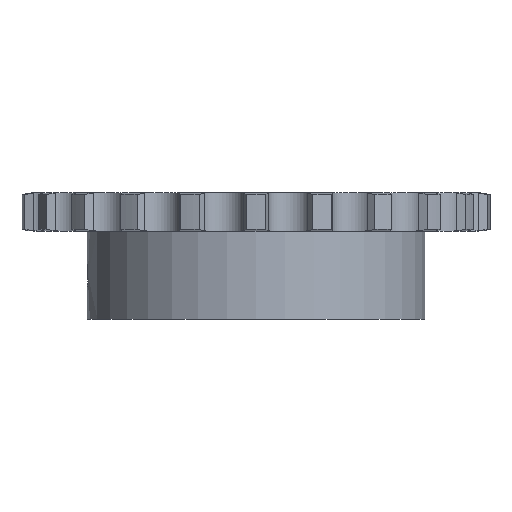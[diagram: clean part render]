
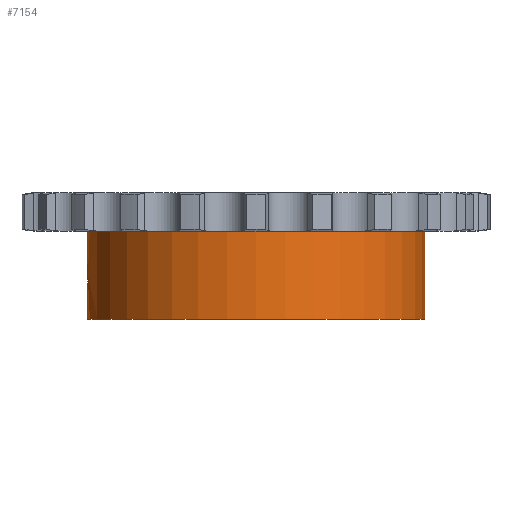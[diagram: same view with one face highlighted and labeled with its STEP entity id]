
A CAD part, front view. The second image highlights one B-rep face of the part: STEP entity #7154.
In plain terms, the highlighted cylindrical face has radius 40 mm (diameter 80 mm), a partial arc.
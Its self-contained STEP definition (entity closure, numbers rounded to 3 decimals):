
#1227=CARTESIAN_POINT('',(0.,0.,-4.55));
#1228=DIRECTION('',(0.,0.,1.));
#1229=DIRECTION('',(-1.,0.,0.));
#1230=AXIS2_PLACEMENT_3D('',#1227,#1228,#1229);
#3560=CARTESIAN_POINT('',(-40.,0.,
-12.));
#3583=DIRECTION('',(0.,0.,1.));
#3584=VECTOR('',#3583,20.9);
#3585=CARTESIAN_POINT('',(40.,0.,-25.45));
#3586=LINE('',#3585,#3584);
#3704=CARTESIAN_POINT('',(-40.,0.,
-12.));
#3705=CARTESIAN_POINT('',(-40.,-0.126,
-12.));
#3706=CARTESIAN_POINT('',(-39.999,-0.405,
-12.017));
#3707=CARTESIAN_POINT('',(-39.992,-0.831,
-12.102));
#3708=CARTESIAN_POINT('',(-39.981,-1.265,
-12.258));
#3709=CARTESIAN_POINT('',(-39.966,-1.669,
-12.476));
#3710=CARTESIAN_POINT('',(-39.949,-2.033,
-12.75));
#3711=CARTESIAN_POINT('',(-39.931,-2.351,
-13.073));
#3712=CARTESIAN_POINT('',(-39.915,-2.617,
-13.44));
#3713=CARTESIAN_POINT('',(-39.9,-2.824,
-13.843));
#3714=CARTESIAN_POINT('',(-39.89,-2.967,
-14.27));
#3715=CARTESIAN_POINT('',(-39.885,-3.036,
-14.659));
#3716=CARTESIAN_POINT('',(-39.884,-3.048,
-14.902));
#3717=CARTESIAN_POINT('',(-39.884,-3.048,
-15.));
#3722=DIRECTION('',(0.,0.,1.));
#3723=VECTOR('',#3722,7.45);
#3724=CARTESIAN_POINT('',(-40.,0.,
-12.));
#3725=LINE('',#3724,#3723);
#3729=DIRECTION('',(0.,0.,1.));
#3730=VECTOR('',#3729,7.45);
#3731=CARTESIAN_POINT('',(-40.,0.,-25.45));
#3732=LINE('',#3731,#3730);
#3736=CARTESIAN_POINT('',(-39.884,-3.048,
-15.));
#3737=CARTESIAN_POINT('',(-39.884,-3.048,
-15.11));
#3738=CARTESIAN_POINT('',(-39.885,-3.034,
-15.364));
#3739=CARTESIAN_POINT('',(-39.89,-2.959,
-15.763));
#3740=CARTESIAN_POINT('',(-39.901,-2.812,
-16.184));
#3741=CARTESIAN_POINT('',(-39.915,-2.603,
-16.582));
#3742=CARTESIAN_POINT('',(-39.932,-2.336,
-16.944));
#3743=CARTESIAN_POINT('',(-39.95,-2.018,
-17.262));
#3744=CARTESIAN_POINT('',(-39.966,-1.655,
-17.532));
#3745=CARTESIAN_POINT('',(-39.981,-1.254,
-17.747));
#3746=CARTESIAN_POINT('',(-39.992,-0.823,
-17.9));
#3747=CARTESIAN_POINT('',(-39.999,-0.401,
-17.983));
#3748=CARTESIAN_POINT('',(-40.,-0.125,
-18.));
#3749=CARTESIAN_POINT('',(-40.,0.,
-18.));
#3762=CARTESIAN_POINT('',(0.,0.,-25.45));
#3763=DIRECTION('',(0.,0.,-1.));
#3764=DIRECTION('',(1.,0.,0.));
#3765=AXIS2_PLACEMENT_3D('',#3762,#3763,#3764);
#4159=CARTESIAN_POINT('',(-40.,0.,-25.45));
#4160=CARTESIAN_POINT('',(40.,0.,-25.45));
#4161=VERTEX_POINT('',#4159);
#4162=VERTEX_POINT('',#4160);
#4163=CARTESIAN_POINT('',(40.,0.,-4.55));
#4164=VERTEX_POINT('',#4163);
#4165=CARTESIAN_POINT('',(-40.,0.,-4.55));
#4166=VERTEX_POINT('',#4165);
#4412=VERTEX_POINT('',#3560);
#4415=VERTEX_POINT('',#3717);
#4417=VERTEX_POINT('',#3749);
#7138=CARTESIAN_POINT('',(0.,0.,4.55));
#7139=DIRECTION('',(0.,0.,1.));
#7140=DIRECTION('',(1.,0.,0.));
#7141=AXIS2_PLACEMENT_3D('',#7138,#7139,#7140);
#7142=CYLINDRICAL_SURFACE('',#7141,40.);
#7143=ORIENTED_EDGE('',*,*,#7128,.F.);
#7144=ORIENTED_EDGE('',*,*,#6743,.T.);
#7145=ORIENTED_EDGE('',*,*,#5686,.T.);
#7146=ORIENTED_EDGE('',*,*,#6740,.F.);
#7148=ORIENTED_EDGE('',*,*,#7147,.T.);
#7149=ORIENTED_EDGE('',*,*,#6736,.T.);
#7151=ORIENTED_EDGE('',*,*,#7150,.F.);
#7152=EDGE_LOOP('',(#7143,#7144,#7145,#7146,#7148,#7149,#7151));
#7153=FACE_OUTER_BOUND('',#7152,.F.);
#7154=ADVANCED_FACE('',(#7153),#7142,.T.);
#1231=CIRCLE('',#1230,40.);
#3718=B_SPLINE_CURVE_WITH_KNOTS('',3,(#3704,#3705,#3706,#3707,#3708,#3709,#3710,
#3711,#3712,#3713,#3714,#3715,#3716,#3717),.UNSPECIFIED.,.F.,.F.,(4,1,1,1,1,1,1,
1,1,1,1,4),(0.,0.078,0.174,0.269,
0.364,0.459,0.555,0.65,
0.745,0.84,0.935,1.),.UNSPECIFIED.);
#3750=B_SPLINE_CURVE_WITH_KNOTS('',3,(#3736,#3737,#3738,#3739,#3740,#3741,#3742,
#3743,#3744,#3745,#3746,#3747,#3748,#3749),.UNSPECIFIED.,.F.,.F.,(4,1,1,1,1,1,1,
1,1,1,1,4),(0.,0.073,0.167,0.262,
0.356,0.45,0.545,0.639,
0.734,0.828,0.922,1.),.UNSPECIFIED.);
#3766=CIRCLE('',#3765,40.);
#5686=EDGE_CURVE('',#4166,#4164,#1231,.T.);
#6736=EDGE_CURVE('',#4161,#4417,#3732,.T.);
#6740=EDGE_CURVE('',#4162,#4164,#3586,.T.);
#6743=EDGE_CURVE('',#4412,#4166,#3725,.T.);
#7128=EDGE_CURVE('',#4412,#4415,#3718,.T.);
#7147=EDGE_CURVE('',#4162,#4161,#3766,.T.);
#7150=EDGE_CURVE('',#4415,#4417,#3750,.T.);
